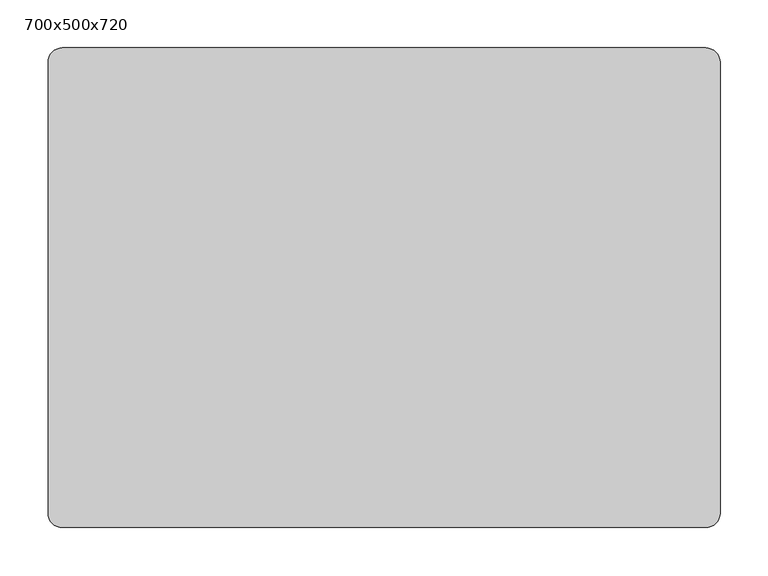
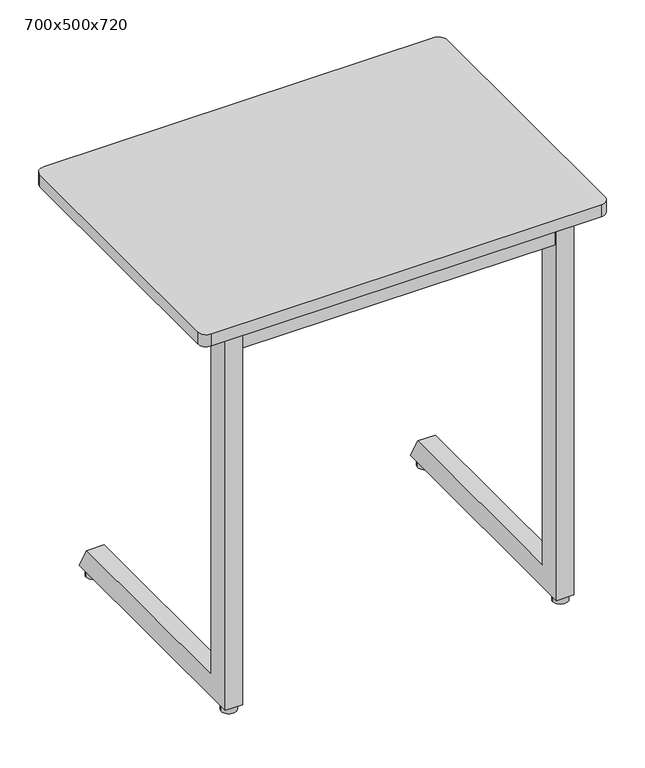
"""IFC4 building model written with IfcOpenShell, lengths in millimetres: furniture geometry, Trivia Light : 700x500x720."""

from ifc_helpers import new_model, si_unit, point, frame, frame_2d, origin, origin_with_axes, place, context, project, spatial, polyline, circle_curve, trimmed, segment, composite_curve, outline, extrude, source, transform, mapped, element, save


def furniture_700x500x720_5b69595e(model_context):
    return source(origin(), model_context, "Body", "SweptSolid", [
        extrude(outline(polyline([(434.5100173, 698.0), (419.9996059, 666.4981092), (54.0, 666.4977978), (54.0, 698.0), (434.5100173, 698.0)])), frame((-214.7535601, 0.0, 0.0), z_axis=(1.0, 0.0, 0.0), x_axis=(0.0, 1.0, 0.0)), (0.0, 0.0, 1.0), 30.0),
        extrude(outline(polyline([(693.7997437, -217.7502136), (670.730957, -217.7502136), (670.730957, -249.8065042), (675.0394353, -261.6439509), (672.2203574, -262.6700113), (667.730957, -250.3354852), (667.730957, -214.7502136), (693.7997437, -214.7502136), (693.7997437, -217.7502136)])), frame((0.0, 215.0, 0.0), z_axis=(0.0, 1.0, 0.0), x_axis=(0.0, 0.0, 1.0)), (0.0, 0.0, 1.0), 30.0),
        extrude(outline(polyline([(693.7997437, 217.7535601), (693.7997437, 214.7535601), (667.730957, 214.7535601), (667.730957, 250.3388316), (672.2203574, 262.6733577), (675.0394353, 261.6472973), (670.730957, 249.8098507), (670.730957, 217.7535601), (693.7997437, 217.7535601)])), frame((0.0, 215.0, 0.0), z_axis=(0.0, 1.0, 0.0), x_axis=(0.0, 0.0, 1.0)), (0.0, 0.0, 1.0), 30.0),
        extrude(outline(composite_curve([segment(trimmed(circle_curve(frame_2d((-285.0, 35.0)), 13.0), [point((-298.0, 35.0))], [point((-272.0, 35.0))], False, "CARTESIAN"), True, "CONTINUOUS"), segment(trimmed(circle_curve(frame_2d((-285.0, 35.0)), 13.0), [point((-272.0, 35.0))], [point((-298.0, 35.0))], False, "CARTESIAN"), True, "CONTINUOUS")], self_intersect=False)), origin_with_axes(), (0.0, 0.0, 1.0), 13.0905762),
        extrude(outline(composite_curve([segment(trimmed(circle_curve(frame_2d((285.0, 35.0)), 13.0), [point((272.0, 35.0))], [point((298.0, 35.0))], False, "CARTESIAN"), True, "CONTINUOUS"), segment(trimmed(circle_curve(frame_2d((285.0, 35.0)), 13.0), [point((298.0, 35.0))], [point((272.0, 35.0))], False, "CARTESIAN"), True, "CONTINUOUS")], self_intersect=False)), origin_with_axes(), (0.0, 0.0, 1.0), 13.0905762),
        extrude(outline(composite_curve([segment(trimmed(circle_curve(frame_2d((285.0, 437.5)), 13.0), [point((272.0, 437.5))], [point((298.0, 437.5))], False, "CARTESIAN"), True, "CONTINUOUS"), segment(trimmed(circle_curve(frame_2d((285.0, 437.5)), 13.0), [point((298.0, 437.5))], [point((272.0, 437.5))], False, "CARTESIAN"), True, "CONTINUOUS")], self_intersect=False)), origin_with_axes(), (0.0, 0.0, 1.0), 13.0905762),
        extrude(outline(composite_curve([segment(trimmed(circle_curve(frame_2d((-285.0, 437.5)), 13.0), [point((-298.0, 437.5))], [point((-272.0, 437.5))], False, "CARTESIAN"), True, "CONTINUOUS"), segment(trimmed(circle_curve(frame_2d((-285.0, 437.5)), 13.0), [point((-272.0, 437.5))], [point((-298.0, 437.5))], False, "CARTESIAN"), True, "CONTINUOUS")], self_intersect=False)), origin_with_axes(), (0.0, 0.0, 1.0), 13.0905762),
        extrude(outline(polyline([(434.5100173, 698.0), (419.9996059, 666.4981092), (54.0, 666.4977978), (54.0, 698.0), (434.5100173, 698.0)])), frame((184.7535601, 0.0, 0.0), z_axis=(1.0, 0.0, 0.0), x_axis=(0.0, 1.0, 0.0)), (0.0, 0.0, 1.0), 30.0),
        extrude(outline(composite_curve([segment(trimmed(circle_curve(frame_2d((335.0, 485.0)), 15.0), [point((335.0, 500.0))], [point((350.0, 485.0))], False, "CARTESIAN"), True, "CONTINUOUS"), segment(polyline([(350.0, 485.0), (350.0, 15.0)]), True, "CONTINUOUS"), segment(trimmed(circle_curve(frame_2d((335.0, 15.0)), 15.0), [point((350.0, 15.0))], [point((335.0, 0.0))], False, "CARTESIAN"), True, "CONTINUOUS"), segment(polyline([(335.0, 0.0), (-335.0, 0.0)]), True, "CONTINUOUS"), segment(trimmed(circle_curve(frame_2d((-335.0, 15.0)), 15.0), [point((-335.0, 0.0))], [point((-350.0, 15.0))], False, "CARTESIAN"), True, "CONTINUOUS"), segment(polyline([(-350.0, 15.0), (-350.0, 485.0)]), True, "CONTINUOUS"), segment(trimmed(circle_curve(frame_2d((-335.0, 485.0)), 15.0), [point((-350.0, 485.0))], [point((-335.0, 500.0))], False, "CARTESIAN"), True, "CONTINUOUS"), segment(polyline([(-335.0, 500.0), (335.0, 500.0)]), True, "CONTINUOUS")], self_intersect=False)), frame((0.0, 0.0, 698.0), z_axis=(0.0, 0.0, 1.0), x_axis=(1.0, 0.0, 0.0)), (0.0, 0.0, 1.0), 22.0),
        extrude(outline(polyline([(269.7534307, 54.0), (269.7534307, 24.0), (-269.7534307, 24.0), (-269.7534307, 54.0), (269.7534307, 54.0)])), frame((0.0, 0.0, 656.0), z_axis=(0.0, 0.0, 1.0), x_axis=(1.0, 0.0, 0.0)), (0.0, 0.0, 1.0), 42.0),
        extrude(outline(polyline([(62.0, 51.5905762), (432.1448423, 51.5905762), (454.8944033, 11.5905762), (20.0, 11.5905762), (20.0, 698.0), (62.0, 698.0), (62.0, 51.5905762)])), frame((-299.7535601, 0.0, 0.0), z_axis=(1.0, 0.0, 0.0), x_axis=(0.0, 1.0, 0.0)), (0.0, 0.0, 1.0), 30.0001294),
        extrude(outline(polyline([(62.0, 51.5905762), (432.1448423, 51.5905762), (454.8944033, 11.5905762), (20.0, 11.5905762), (20.0, 698.0), (62.0, 698.0), (62.0, 51.5905762)])), frame((269.7534307, 0.0, 0.0), z_axis=(1.0, 0.0, 0.0), x_axis=(0.0, 1.0, 0.0)), (0.0, 0.0, 1.0), 30.0001294),
    ])


if __name__ == "__main__":
    model = new_model("IFC4")
    model_context = context("Model", 3, world=origin())
    ifc_project = project(units=[si_unit("LENGTHUNIT", "METRE", prefix="MILLI")], contexts=[model_context])
    site = spatial("IfcSite", under=ifc_project)
    building = spatial("IfcBuilding", under=site)
    placement = place(None, origin())
    furniture_700x500x720_shape = furniture_700x500x720_5b69595e(model_context)
    element("IfcFurniture", 1, ObjectType="Trivia Light : 700x500x720", at=placement, inside=building, context=model_context, shape_type="MappedRepresentation", body=[
        mapped(furniture_700x500x720_shape, transform((0.0, 0.0, 0.0), x_axis=(1.0, 0.0, 0.0), y_axis=(0.0, 1.0, 0.0), z_axis=(0.0, 0.0, 1.0))),
    ])
    save(model, "model.ifc")
